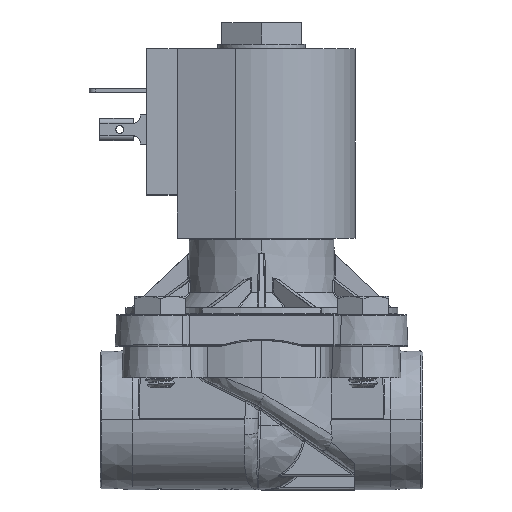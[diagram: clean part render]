
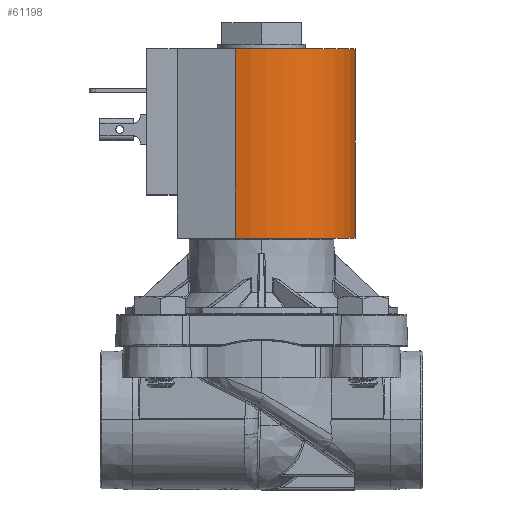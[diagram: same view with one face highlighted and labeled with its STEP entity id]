
A CAD part, top view. The second image highlights one B-rep face of the part: STEP entity #61198.
In plain terms, the highlighted cylindrical face has radius 20.32 mm (diameter 40.64 mm), a partial arc.
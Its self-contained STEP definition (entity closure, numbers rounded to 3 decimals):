
#1289 = VECTOR ( 'NONE', #27690, 1000. ) ;
#8020 = CARTESIAN_POINT ( 'NONE',  ( -5.58, 73.534, 19.531 ) ) ;
#8452 = ORIENTED_EDGE ( 'NONE', *, *, #83549, .F. ) ;
#9256 = CARTESIAN_POINT ( 'NONE',  ( 0.028, 73.534, 0.001 ) ) ;
#16008 = VECTOR ( 'NONE', #46946, 1000. ) ;
#17072 = ORIENTED_EDGE ( 'NONE', *, *, #76290, .T. ) ;
#19122 = VERTEX_POINT ( 'NONE', #93324 ) ;
#20325 = DIRECTION ( 'NONE',  ( -1., 0., 0. ) ) ;
#24705 = DIRECTION ( 'NONE',  ( 1., 0., 0. ) ) ;
#25753 = DIRECTION ( 'NONE',  ( 0., -1., 0. ) ) ;
#27690 = DIRECTION ( 'NONE',  ( 0., -1., 0. ) ) ;
#31947 = CARTESIAN_POINT ( 'NONE',  ( 20.348, 73.534, 0.001 ) ) ;
#32205 = VERTEX_POINT ( 'NONE', #81897 ) ;
#37824 = EDGE_CURVE ( 'NONE', #32205, #65286, #81029, .T. ) ;
#41413 = CARTESIAN_POINT ( 'NONE',  ( -5.58, 32.386, 19.531 ) ) ;
#43330 = AXIS2_PLACEMENT_3D ( 'NONE', #9256, #25753, #24705 ) ;
#45871 = CARTESIAN_POINT ( 'NONE',  ( 0.028, 73.534, 0.001 ) ) ;
#46465 = ORIENTED_EDGE ( 'NONE', *, *, #37824, .T. ) ;
#46946 = DIRECTION ( 'NONE',  ( 0., -1., 0. ) ) ;
#49660 = CIRCLE ( 'NONE', #104093, 20.32 ) ;
#52234 = CARTESIAN_POINT ( 'NONE',  ( 20.348, 73.534, 0.001 ) ) ;
#60697 = DIRECTION ( 'NONE',  ( 0., 1., 0. ) ) ;
#61198 = ADVANCED_FACE ( 'Defeatured_0_683', ( #97750 ), #82775, .T. ) ;
#65286 = VERTEX_POINT ( 'NONE', #41413 ) ;
#71871 = AXIS2_PLACEMENT_3D ( 'NONE', #82566, #60697, #76665 ) ;
#76194 = VERTEX_POINT ( 'NONE', #31947 ) ;
#76290 = EDGE_CURVE ( 'NONE', #65286, #19122, #92250, .T. ) ;
#76665 = DIRECTION ( 'NONE',  ( -1., 0., 0. ) ) ;
#81029 = LINE ( 'NONE', #8020, #16008 ) ;
#81897 = CARTESIAN_POINT ( 'NONE',  ( -5.58, 73.534, 19.531 ) ) ;
#82566 = CARTESIAN_POINT ( 'NONE',  ( 0.028, 32.386, 0.001 ) ) ;
#82775 = CYLINDRICAL_SURFACE ( 'NONE', #43330, 20.32 ) ;
#83549 = EDGE_CURVE ( 'NONE', #76194, #19122, #92726, .T. ) ;
#85556 = ORIENTED_EDGE ( 'NONE', *, *, #99778, .F. ) ;
#92250 = CIRCLE ( 'NONE', #71871, 20.32 ) ;
#92726 = LINE ( 'NONE', #52234, #1289 ) ;
#93324 = CARTESIAN_POINT ( 'NONE',  ( 20.348, 32.386, 0.001 ) ) ;
#94842 = EDGE_LOOP ( 'NONE', ( #8452, #85556, #46465, #17072 ) ) ;
#94912 = DIRECTION ( 'NONE',  ( 0., 1., 0. ) ) ;
#97750 = FACE_OUTER_BOUND ( 'NONE', #94842, .T. ) ;
#99778 = EDGE_CURVE ( 'NONE', #32205, #76194, #49660, .T. ) ;
#104093 = AXIS2_PLACEMENT_3D ( 'NONE', #45871, #94912, #20325 ) ;
